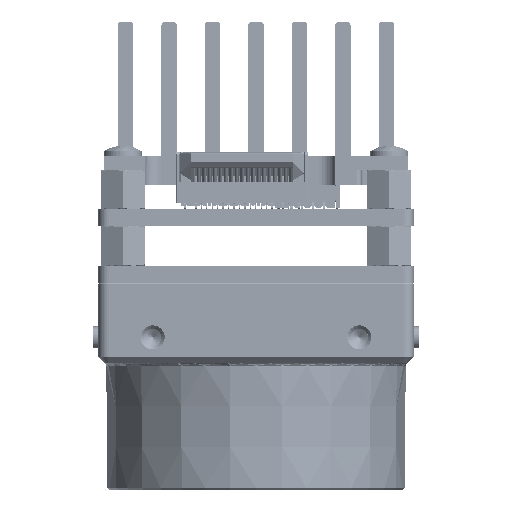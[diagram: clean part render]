
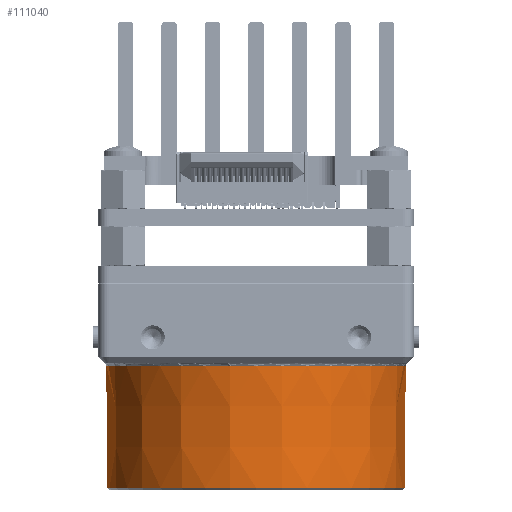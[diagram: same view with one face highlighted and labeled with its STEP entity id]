
A CAD part, front view. The second image highlights one B-rep face of the part: STEP entity #111040.
In plain terms, the highlighted conical face has half-angle 0.5 degrees and reference radius 13.721 mm.
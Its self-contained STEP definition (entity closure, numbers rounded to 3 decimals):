
#106902=CARTESIAN_POINT('',(0.,0.,-0.617));
#106903=DIRECTION('',(0.,0.,1.));
#106904=DIRECTION('',(0.,-1.,0.));
#106905=AXIS2_PLACEMENT_3D('',#106902,#106903,#106904);
#106914=CARTESIAN_POINT('',(0.,0.,-11.84));
#106915=DIRECTION('',(0.,0.,-1.));
#106916=DIRECTION('',(1.,0.,0.));
#106917=AXIS2_PLACEMENT_3D('',#106914,#106915,#106916);
#106919=CARTESIAN_POINT('',(0.,0.,-0.617));
#106920=DIRECTION('',(0.,0.,1.));
#106921=DIRECTION('',(-1.,0.,0.));
#106922=AXIS2_PLACEMENT_3D('',#106919,#106920,#106921);
#106929=DIRECTION('',(0.009,0.,1.));
#106930=VECTOR('',#106929,11.223);
#106931=CARTESIAN_POINT('',(13.672,0.,
-11.84));
#106932=LINE('',#106931,#106930);
#106933=DIRECTION('',(0.009,0.,-1.));
#106934=VECTOR('',#106933,11.223);
#106935=CARTESIAN_POINT('',(-13.77,0.,
-0.617));
#106936=LINE('',#106935,#106934);
#108455=CARTESIAN_POINT('',(13.77,0.,
-0.617));
#110105=CARTESIAN_POINT('',(-13.77,0.,-0.617));
#110107=VERTEX_POINT('',#110105);
#110109=CARTESIAN_POINT('',(0.,-13.77,
-0.617));
#110110=VERTEX_POINT('',#110109);
#110119=CARTESIAN_POINT('',(13.672,0.,
-11.84));
#110120=CARTESIAN_POINT('',(-13.672,0.,-11.84));
#110121=VERTEX_POINT('',#110119);
#110122=VERTEX_POINT('',#110120);
#110429=VERTEX_POINT('',#108455);
#111024=CARTESIAN_POINT('',(0.,0.,-6.229));
#111025=DIRECTION('',(0.,0.,1.));
#111026=DIRECTION('',(1.,0.,0.));
#111027=AXIS2_PLACEMENT_3D('',#111024,#111025,#111026);
#111028=CONICAL_SURFACE('',#111027,13.721,0.5);
#111030=ORIENTED_EDGE('',*,*,#111029,.T.);
#111032=ORIENTED_EDGE('',*,*,#111031,.F.);
#111034=ORIENTED_EDGE('',*,*,#111033,.T.);
#111035=ORIENTED_EDGE('',*,*,#111010,.T.);
#111037=ORIENTED_EDGE('',*,*,#111036,.F.);
#111038=EDGE_LOOP('',(#111030,#111032,#111034,#111035,#111037));
#111039=FACE_OUTER_BOUND('',#111038,.F.);
#111040=ADVANCED_FACE('',(#111039),#111028,.T.);
#106906=CIRCLE('',#106905,13.77);
#106918=CIRCLE('',#106917,13.672);
#106923=CIRCLE('',#106922,13.77);
#111010=EDGE_CURVE('',#110110,#110429,#106906,.T.);
#111029=EDGE_CURVE('',#110121,#110122,#106918,.T.);
#111031=EDGE_CURVE('',#110107,#110122,#106936,.T.);
#111033=EDGE_CURVE('',#110107,#110110,#106923,.T.);
#111036=EDGE_CURVE('',#110121,#110429,#106932,.T.);
